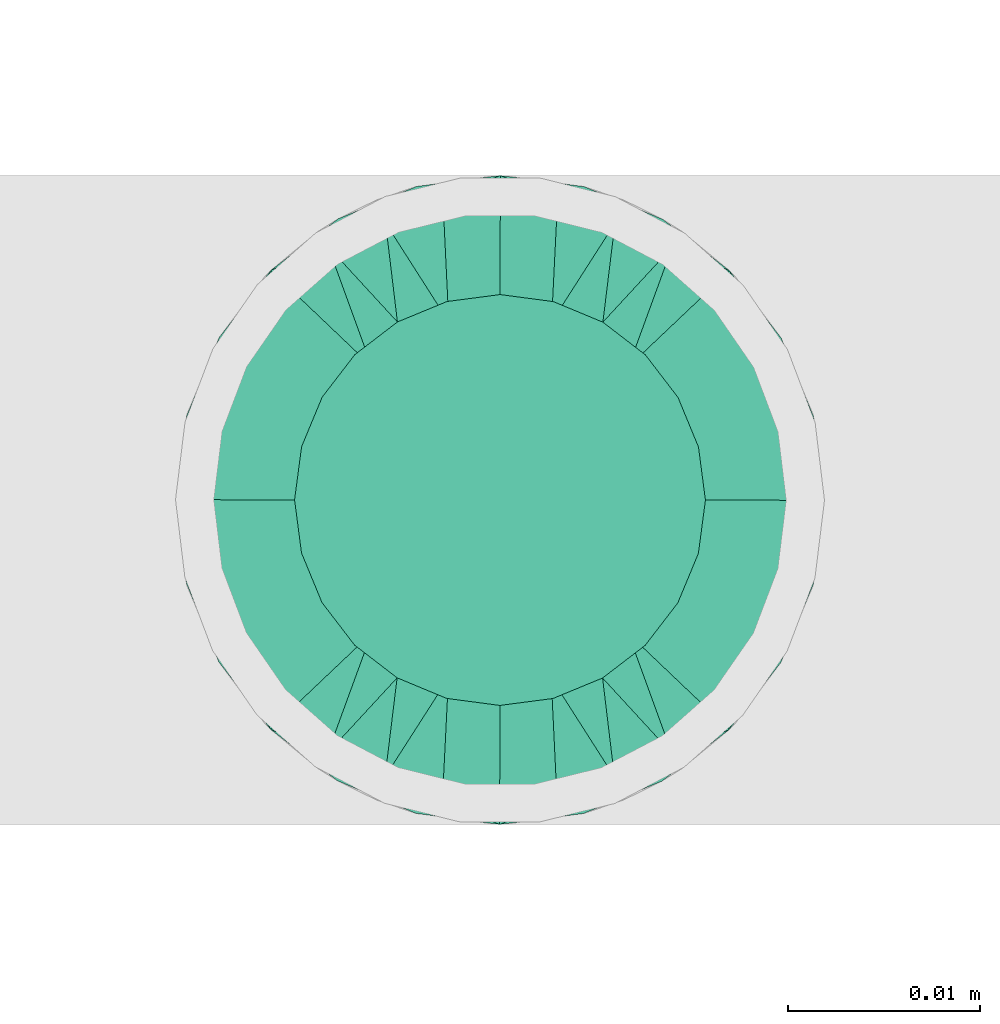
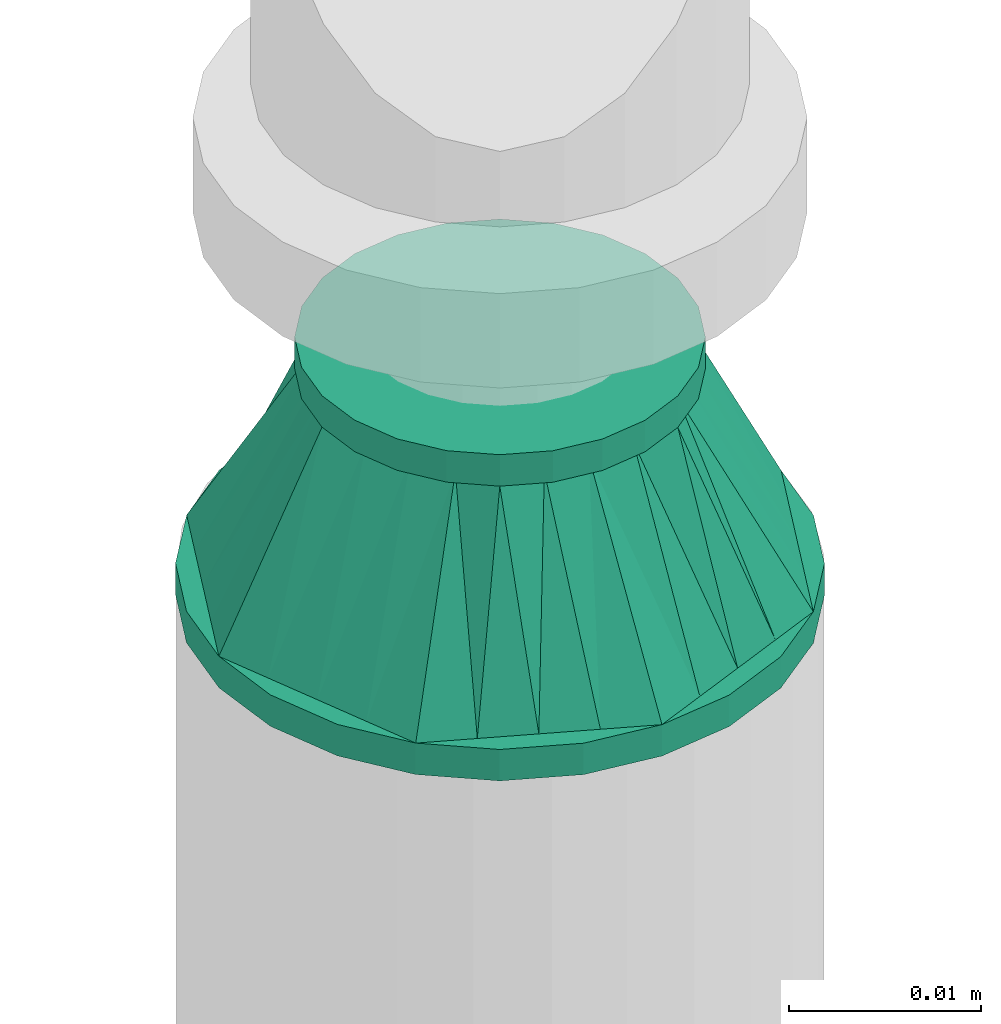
# One storey, part 29 of 94: 1 flow fitting.
"""IFC2X3 building model written with IfcOpenShell, lengths in millimetres."""

from ifc_helpers import new_model, entity, si_unit, converted_unit, derived_unit, direction, frame, origin_with_axes, place, context, subcontext, project, spatial, open_shell, surface_model, source, transform, mapped, type_object, element, save


model = new_model("IFC2X3")

# Units and contexts
model_context = context("Model", 3, precision=0.01, world=frame((0.0, 4.29681676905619e-09, 0.0)), true_north=direction((4.01073788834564e-13, 1.0)))
plan_context = context("Plan", 3, precision=0.01, world=frame((0.0, 4.29681676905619e-09, 0.0)), true_north=direction((4.01073788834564e-13, 1.0)))
body_context = subcontext(model_context, "Body", "Model", "MODEL_VIEW")
ifc_project = project(units=[converted_unit("PLANEANGLEUNIT", "DEGREE", entity("IfcPositiveLengthMeasure", 0.0174532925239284), si_unit("PLANEANGLEUNIT", "RADIAN"), dimensions=[0, 0, 0, 0, 0, 0, 0]), si_unit("AREAUNIT", "SQUARE_METRE"), si_unit("LENGTHUNIT", "METRE", prefix="MILLI"), si_unit("MASSUNIT", "GRAM", prefix="KILO"), si_unit("POWERUNIT", "WATT"), si_unit("PRESSUREUNIT", "PASCAL", prefix="KILO"), si_unit("FORCEUNIT", "NEWTON", prefix="KILO"), si_unit("ELECTRICVOLTAGEUNIT", "VOLT"), si_unit("ELECTRICCURRENTUNIT", "AMPERE"), si_unit("THERMODYNAMICTEMPERATUREUNIT", "DEGREE_CELSIUS"), si_unit("TIMEUNIT", "SECOND"), si_unit("VOLUMEUNIT", "CUBIC_METRE"), derived_unit("LINEARVELOCITYUNIT", [(si_unit("LENGTHUNIT", "METRE"), 1), (si_unit("TIMEUNIT", "SECOND"), -1)]), derived_unit("VOLUMETRICFLOWRATEUNIT", [(si_unit("VOLUMEUNIT", "CUBIC_METRE"), 1), (si_unit("TIMEUNIT", "SECOND"), -1)]), derived_unit("THERMALTRANSMITTANCEUNIT", [(si_unit("POWERUNIT", "WATT"), 1), (si_unit("THERMODYNAMICTEMPERATUREUNIT", "KELVIN"), -1), (si_unit("AREAUNIT", "SQUARE_METRE"), -1)]), derived_unit("SOUNDPRESSUREUNIT", [(si_unit("PRESSUREUNIT", "PASCAL"), 1)])], contexts=[model_context, plan_context])

# Site, building, storey
site_placement = place(None, frame((0.0, -4.29681676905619e-09, 0.0), z_axis=(0.0, 0.0, 1.0), x_axis=(1.0, 0.0, 0.0)))
site = spatial("IfcSite", under=ifc_project, at=site_placement, CompositionType="ELEMENT")
building_placement = place(site_placement, frame((0.0, 4.29681676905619e-09, 0.0), z_axis=(0.0, 0.0, 1.0), x_axis=(1.0, 0.0, 0.0)))
building = spatial("IfcBuilding", under=site, at=building_placement, Name="mc-building", CompositionType="ELEMENT")
storey_placement = place(building_placement, frame((0.0, 0.0, 210900.0), z_axis=(0.0, 0.0, 1.0), x_axis=(1.0, 0.0, 0.0)))
storey = spatial("IfcBuildingStorey", under=building, at=storey_placement, Name="Nivå F", CompositionType="ELEMENT", Elevation=210900.0)

# Flow fitting
pipe_fitting_type = type_object("IfcPipeFittingType", Name="magi_pipe_fe_reducer_centric_short_NOR", PredefinedType="TRANSITION")
shared_shape = source(origin_with_axes(), body_context, "Body", "SurfaceModel", [
    surface_model("IfcShellBasedSurfaceModel", [(14.4, 5.35, -9.26647), (14.4, 0.0, -10.7), (14.4, 2.76936, -10.33541), (14.4, 10.33541, -2.76936), (14.4, 7.56604, -7.56604), (14.4, -10.33541, -2.76936), (14.4, 9.26647, -5.35), (14.4, 0.0, 10.7), (14.4, -5.35, -9.26647), (14.4, -2.76936, -10.33541), (14.4, -7.56604, -7.56604), (14.4, -9.26647, -5.35), (14.4, 10.7, 0.0), (14.4, 10.33541, 2.76936), (14.4, 9.26647, 5.35), (14.4, 7.56604, 7.56604), (14.4, 2.76936, 10.33541), (14.4, 5.35, 9.26647), (14.4, -10.33541, 2.76936), (14.4, -7.56604, 7.56604), (14.4, -9.26647, 5.35), (14.4, -10.7, 0.0), (14.4, -2.76936, 10.33541), (14.4, -5.35, 9.26647), (12.4, 2.76936, 10.33541), (12.4, -10.33541, -2.76936), (12.4, 0.0, 10.7), (12.4, 5.35, 9.26647), (12.4, 7.56604, 7.56604), (12.4, 9.26647, 5.35), (12.4, 10.33541, 2.76936), (12.4, -10.33541, 2.76936), (12.4, -2.76936, 10.33541), (12.4, -7.56604, 7.56604), (12.4, -5.35, 9.26647), (12.4, -9.26647, 5.35), (12.4, -10.7, 0.0), (12.4, 10.33541, -2.76936), (12.4, 5.35, -9.26647), (12.4, 9.26647, -5.35), (12.4, 7.56604, -7.56604), (12.4, 2.76936, -10.33541), (12.4, -9.26647, -5.35), (12.4, -5.35, -9.26647), (12.4, -7.56604, -7.56604), (12.4, 0.0, -10.7), (12.4, -2.76936, -10.33541), (12.4, 10.7, 0.0), (-2.0, 11.9501, 11.9501), (-2.0, 0.0, 16.9), (-2.0, 4.37404, 16.32415), (-2.0, 8.45, 14.63583), (-2.0, 14.63583, 8.45), (-2.0, 16.32415, 4.37404), (-2.0, -16.32415, 4.37404), (-2.0, -8.45, 14.63583), (-2.0, -14.63583, 8.45), (-2.0, -11.9501, 11.9501), (-2.0, -4.37404, 16.32415), (-2.0, -16.32415, -4.37404), (-2.0, -16.9, 0.0), (-2.0, -8.45, -14.63583), (-2.0, 16.32415, -4.37404), (-2.0, 11.9501, -11.9501), (-2.0, 14.63583, -8.45), (-2.0, 8.45, -14.63583), (-2.0, 4.37404, -16.32415), (-2.0, 0.0, -16.9), (-2.0, -11.9501, -11.9501), (-2.0, -14.63583, -8.45), (-2.0, -4.37404, -16.32415), (-2.0, 16.9, 0.0), (0.0, 4.37404, -16.32415), (0.0, 8.45, -14.63583), (0.0, 11.9501, -11.9501), (0.0, 0.0, -16.9), (0.0, 16.32415, -4.37404), (0.0, 16.32415, 4.37404), (0.0, 14.63583, -8.45), (0.0, -8.45, -14.63583), (0.0, -4.37404, -16.32415), (0.0, -11.9501, -11.9501), (0.0, -16.32415, -4.37404), (0.0, -14.63583, -8.45), (0.0, -16.32415, 4.37404), (0.0, 16.9, 0.0), (0.0, 14.63583, 8.45), (0.0, 11.9501, 11.9501), (0.0, 4.37404, 16.32415), (0.0, 8.45, 14.63583), (0.0, 0.0, 16.9), (0.0, -14.63583, 8.45), (0.0, -16.9, 0.0), (0.0, -8.45, 14.63583), (0.0, -11.9501, 11.9501), (0.0, -4.37404, 16.32415), (12.4, 9.3625, -2.31662), (0.0, 14.42505, -5.97505), (0.0, 15.66253, -2.98753), (12.4, -6.6875, -6.94985), (0.0, -13.18758, -8.96258), (0.0, 2.98753, -15.66253), (12.4, 0.0, -9.26647), (12.4, 6.6875, -6.94985), (0.0, 8.96258, -13.18758), (12.4, -9.3625, -2.31662), (0.0, -15.66253, -2.98753), (0.0, -14.42505, -5.97505), (0.0, 5.97505, -14.42505), (0.0, -2.98753, -15.66253), (0.0, -8.96258, -13.18758), (0.0, 13.18758, -8.96258), (12.4, 8.025, -4.63324), (12.4, -2.675, -9.26647), (12.4, 2.675, -9.26647), (0.0, -5.97505, -14.42505), (12.4, -8.025, -4.63324), (12.4, -9.3625, 2.31662), (0.0, -14.42505, 5.97505), (0.0, -15.66253, 2.98753), (12.4, 6.6875, 6.94985), (0.0, 13.18758, 8.96258), (0.0, -2.98753, 15.66253), (12.4, 0.0, 9.26647), (12.4, -6.6875, 6.94985), (0.0, -8.96258, 13.18758), (12.4, 9.3625, 2.31662), (0.0, 15.66253, 2.98753), (0.0, 14.42505, 5.97505), (0.0, -5.97505, 14.42505), (0.0, 2.98753, 15.66253), (0.0, 8.96258, 13.18758), (0.0, -13.18758, 8.96258), (12.4, -8.025, 4.63324), (12.4, 2.675, 9.26647), (12.4, -2.675, 9.26647), (0.0, 5.97505, 14.42505), (12.4, 8.025, 4.63324)], [open_shell([[[0, 1, 2]], [[3, 0, 4]], [[5, 0, 3]], [[3, 4, 6]], [[7, 5, 3]], [[1, 8, 9]], [[1, 0, 8]], [[10, 5, 11]], [[5, 10, 8]], [[0, 5, 8]], [[3, 12, 13]], [[13, 14, 15]], [[13, 15, 16]], [[7, 3, 16]], [[16, 15, 17]], [[7, 18, 5]], [[18, 19, 20]], [[21, 5, 18]], [[19, 22, 23]], [[22, 19, 18]], [[7, 22, 18]], [[13, 16, 3]], [[24, 25, 26]], [[27, 25, 24]], [[28, 29, 30]], [[28, 25, 27]], [[31, 26, 25]], [[32, 33, 34]], [[33, 32, 31]], [[33, 31, 35]], [[32, 26, 31]], [[31, 25, 36]], [[30, 37, 28]], [[25, 28, 37]], [[38, 37, 39]], [[37, 38, 25]], [[38, 39, 40]], [[41, 25, 38]], [[42, 43, 44]], [[43, 42, 25]], [[43, 45, 46]], [[43, 25, 41]], [[41, 45, 43]], [[37, 30, 47]], [[25, 5, 36]], [[42, 11, 25]], [[8, 44, 43]], [[42, 44, 10]], [[9, 43, 46]], [[25, 11, 5]], [[5, 21, 36]], [[9, 8, 43]], [[10, 44, 8]], [[10, 11, 42]], [[1, 9, 46]], [[46, 45, 1]], [[41, 2, 45]], [[38, 0, 41]], [[6, 40, 39]], [[38, 40, 4]], [[3, 39, 37]], [[38, 4, 0]], [[0, 2, 41]], [[12, 3, 37]], [[6, 39, 3]], [[6, 4, 40]], [[47, 12, 37]], [[45, 2, 1]], [[30, 13, 47]], [[29, 14, 30]], [[17, 28, 27]], [[29, 28, 15]], [[16, 27, 24]], [[30, 14, 13]], [[13, 12, 47]], [[16, 17, 27]], [[15, 28, 17]], [[15, 14, 29]], [[7, 16, 24]], [[24, 26, 7]], [[32, 22, 26]], [[34, 23, 32]], [[20, 33, 35]], [[34, 33, 19]], [[18, 35, 31]], [[34, 19, 23]], [[23, 22, 32]], [[21, 18, 31]], [[20, 35, 18]], [[20, 19, 33]], [[36, 21, 31]], [[26, 22, 7]], [[48, 49, 50]], [[48, 50, 51]], [[48, 52, 53]], [[48, 53, 49]], [[49, 53, 54]], [[55, 56, 57]], [[55, 58, 49]], [[56, 55, 49]], [[49, 54, 56]], [[54, 59, 60]], [[54, 53, 61]], [[53, 62, 63]], [[63, 62, 64]], [[63, 65, 66]], [[61, 53, 63]], [[67, 63, 66]], [[59, 68, 69]], [[68, 59, 61]], [[61, 67, 70]], [[59, 54, 61]], [[63, 67, 61]], [[53, 71, 62]], [[72, 73, 74]], [[75, 72, 74]], [[74, 76, 77]], [[76, 74, 78]], [[74, 77, 79]], [[75, 79, 80]], [[75, 74, 79]], [[81, 82, 83]], [[82, 81, 79]], [[79, 84, 82]], [[77, 76, 85]], [[77, 86, 87]], [[77, 87, 88]], [[88, 84, 79]], [[88, 87, 89]], [[84, 88, 90]], [[90, 91, 84]], [[92, 82, 84]], [[91, 93, 94]], [[91, 90, 93]], [[93, 90, 95]], [[79, 77, 88]], [[59, 82, 60]], [[69, 83, 59]], [[79, 68, 61]], [[69, 68, 81]], [[80, 61, 70]], [[59, 83, 82]], [[82, 92, 60]], [[80, 79, 61]], [[81, 68, 79]], [[81, 83, 69]], [[75, 80, 70]], [[70, 67, 75]], [[66, 72, 67]], [[65, 73, 66]], [[78, 63, 64]], [[65, 63, 74]], [[76, 64, 62]], [[65, 74, 73]], [[73, 72, 66]], [[85, 76, 62]], [[78, 64, 76]], [[78, 74, 63]], [[71, 85, 62]], [[67, 72, 75]], [[53, 77, 71]], [[52, 86, 53]], [[89, 48, 51]], [[52, 48, 87]], [[88, 51, 50]], [[53, 86, 77]], [[77, 85, 71]], [[88, 89, 51]], [[87, 48, 89]], [[87, 86, 52]], [[90, 88, 50]], [[50, 49, 90]], [[58, 95, 49]], [[55, 93, 58]], [[91, 57, 56]], [[55, 57, 94]], [[84, 56, 54]], [[55, 94, 93]], [[93, 95, 58]], [[92, 84, 54]], [[91, 56, 84]], [[91, 94, 57]], [[60, 92, 54]], [[49, 95, 90]], [[27, 34, 47]], [[47, 34, 43]], [[43, 38, 47]], [[43, 34, 36]], [[90, 87, 94]], [[92, 94, 87]], [[87, 74, 92]], [[75, 92, 74]], [[81, 92, 75]], [[74, 87, 85]], [[96, 97, 98]], [[81, 99, 100]], [[101, 102, 75]], [[98, 85, 47]], [[74, 103, 104]], [[104, 103, 38]], [[105, 106, 107]], [[38, 108, 104]], [[102, 109, 75]], [[110, 99, 81]], [[47, 96, 98]], [[103, 111, 112]], [[109, 102, 113]], [[36, 92, 106]], [[102, 101, 114]], [[110, 115, 43]], [[96, 112, 97]], [[107, 116, 105]], [[36, 106, 105]], [[113, 115, 109]], [[43, 115, 113]], [[116, 107, 100]], [[108, 38, 114]], [[111, 103, 74]], [[111, 97, 112]], [[99, 110, 43]], [[116, 100, 99]], [[101, 108, 114]], [[117, 118, 119]], [[87, 120, 121]], [[122, 123, 90]], [[119, 92, 36]], [[94, 124, 125]], [[125, 124, 34]], [[126, 127, 128]], [[34, 129, 125]], [[123, 130, 90]], [[131, 120, 87]], [[36, 117, 119]], [[124, 132, 133]], [[130, 123, 134]], [[47, 85, 127]], [[123, 122, 135]], [[131, 136, 27]], [[117, 133, 118]], [[128, 137, 126]], [[47, 127, 126]], [[134, 136, 130]], [[27, 136, 134]], [[137, 128, 121]], [[129, 34, 135]], [[132, 124, 94]], [[132, 118, 133]], [[120, 131, 27]], [[137, 121, 120]], [[122, 129, 135]]])]),
])
flow_fitting_placement = place(storey_placement, frame((719973.83068, 435194.37907, 4357.64799999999), z_axis=(-0.000893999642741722, -0.99999960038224, 0.0), x_axis=(0.0, 0.0, 1.0)))
element("IfcFlowFitting", 1, at=flow_fitting_placement, inside=storey, type_object=pipe_fitting_type, Name="magi_pipe_fe_reducer_centric_short_NOR", context=body_context, shape_type="MappedRepresentation", body=[
    mapped(shared_shape, transform((0.0, 0.0, 0.0), scale=1.0)),
])

save(model, "model.ifc")
